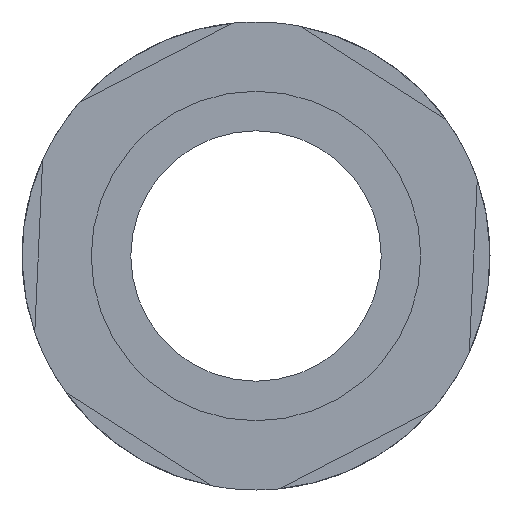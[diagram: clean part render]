
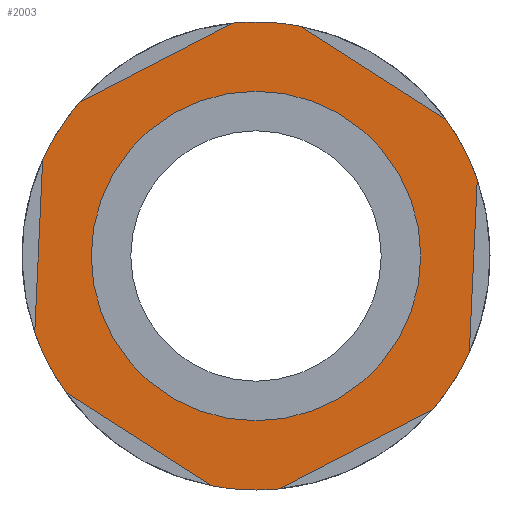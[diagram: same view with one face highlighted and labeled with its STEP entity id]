
A CAD part, front view. The second image highlights one B-rep face of the part: STEP entity #2003.
In plain terms, the highlighted planar face has unit normal (0, -1, 0).
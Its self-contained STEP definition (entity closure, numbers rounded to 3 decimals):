
#4 = DIRECTION ( 'NONE',  ( 0., 0., 1. ) ) ;
#36 = VERTEX_POINT ( 'NONE', #1442 ) ;
#48 = CARTESIAN_POINT ( 'NONE',  ( 16.043, 0., -10.277 ) ) ;
#69 = VERTEX_POINT ( 'NONE', #755 ) ;
#71 = CARTESIAN_POINT ( 'NONE',  ( -13.394, 0., 11.647 ) ) ;
#78 = VERTEX_POINT ( 'NONE', #1430 ) ;
#79 = FACE_OUTER_BOUND ( 'NONE', #2110, .T. ) ;
#81 = LINE ( 'NONE', #2176, #2086 ) ;
#103 = VERTEX_POINT ( 'NONE', #1650 ) ;
#113 = EDGE_CURVE ( 'NONE', #693, #69, #1532, .T. ) ;
#115 = AXIS2_PLACEMENT_3D ( 'NONE', #960, #254, #977 ) ;
#143 = VERTEX_POINT ( 'NONE', #2141 ) ;
#146 = CARTESIAN_POINT ( 'NONE',  ( 0., 0., 0. ) ) ;
#214 = DIRECTION ( 'NONE',  ( 0., 1., 0. ) ) ;
#248 = CIRCLE ( 'NONE', #836, 17.75 ) ;
#254 = DIRECTION ( 'NONE',  ( 0., 1., 0. ) ) ;
#263 = CARTESIAN_POINT ( 'NONE',  ( 0., 0., 0. ) ) ;
#269 = DIRECTION ( 'NONE',  ( 0., 1., 0. ) ) ;
#281 = AXIS2_PLACEMENT_3D ( 'NONE', #1184, #2056, #2219 ) ;
#283 = CARTESIAN_POINT ( 'NONE',  ( -14.409, 0., -10.365 ) ) ;
#307 = CARTESIAN_POINT ( 'NONE',  ( 0., 0., 0. ) ) ;
#310 = EDGE_CURVE ( 'NONE', #1712, #693, #1266, .T. ) ;
#315 = CARTESIAN_POINT ( 'NONE',  ( -16.181, 0., 7.297 ) ) ;
#326 = AXIS2_PLACEMENT_3D ( 'NONE', #307, #674, #1546 ) ;
#425 = VECTOR ( 'NONE', #907, 1000. ) ;
#432 = AXIS2_PLACEMENT_3D ( 'NONE', #263, #785, #1996 ) ;
#442 = CARTESIAN_POINT ( 'NONE',  ( 0., 0., 12.5 ) ) ;
#461 = EDGE_CURVE ( 'NONE', #1877, #1389, #1388, .T. ) ;
#533 = AXIS2_PLACEMENT_3D ( 'NONE', #1942, #214, #1076 ) ;
#537 = CIRCLE ( 'NONE', #115, 17.75 ) ;
#538 = CARTESIAN_POINT ( 'NONE',  ( 16.921, 0., 8.756 ) ) ;
#563 = EDGE_CURVE ( 'NONE', #103, #1712, #248, .T. ) ;
#570 = VERTEX_POINT ( 'NONE', #2102 ) ;
#585 = CARTESIAN_POINT ( 'NONE',  ( 0., 0., 0. ) ) ;
#650 = FACE_BOUND ( 'NONE', #828, .T. ) ;
#657 = DIRECTION ( 'NONE',  ( 0.842, 0., -0.539 ) ) ;
#674 = DIRECTION ( 'NONE',  ( 0., 1., 0. ) ) ;
#677 = EDGE_CURVE ( 'NONE', #1391, #2027, #1688, .T. ) ;
#693 = VERTEX_POINT ( 'NONE', #283 ) ;
#701 = CARTESIAN_POINT ( 'NONE',  ( 13.394, 0., -11.647 ) ) ;
#711 = VECTOR ( 'NONE', #2186, 1000. ) ;
#718 = CARTESIAN_POINT ( 'NONE',  ( 16.181, 0., -7.297 ) ) ;
#755 = CARTESIAN_POINT ( 'NONE',  ( -16.784, 0., -5.776 ) ) ;
#769 = VECTOR ( 'NONE', #657, 1000. ) ;
#771 = ORIENTED_EDGE ( 'NONE', *, *, #310, .F. ) ;
#785 = DIRECTION ( 'NONE',  ( 0., 1., 0. ) ) ;
#788 = EDGE_CURVE ( 'NONE', #78, #968, #1814, .T. ) ;
#801 = VERTEX_POINT ( 'NONE', #315 ) ;
#810 = AXIS2_PLACEMENT_3D ( 'NONE', #146, #866, #2072 ) ;
#811 = DIRECTION ( 'NONE',  ( 0.046, 0., 0.999 ) ) ;
#828 = EDGE_LOOP ( 'NONE', ( #1714, #2189 ) ) ;
#835 = CARTESIAN_POINT ( 'NONE',  ( 0.878, 0., 19.032 ) ) ;
#836 = AXIS2_PLACEMENT_3D ( 'NONE', #585, #1657, #1978 ) ;
#866 = DIRECTION ( 'NONE',  ( 0., 1., 0. ) ) ;
#867 = AXIS2_PLACEMENT_3D ( 'NONE', #1319, #269, #1489 ) ;
#886 = DIRECTION ( 'NONE',  ( 0., 1., 0. ) ) ;
#899 = LINE ( 'NONE', #48, #425 ) ;
#904 = DIRECTION ( 'NONE',  ( -0.046, 0., -0.999 ) ) ;
#907 = DIRECTION ( 'NONE',  ( -0.888, 0., -0.46 ) ) ;
#940 = EDGE_CURVE ( 'NONE', #1389, #1877, #2064, .T. ) ;
#960 = CARTESIAN_POINT ( 'NONE',  ( 0., 0., 0. ) ) ;
#962 = CIRCLE ( 'NONE', #326, 17.75 ) ;
#968 = VERTEX_POINT ( 'NONE', #2144 ) ;
#972 = CARTESIAN_POINT ( 'NONE',  ( 0., 0., -12.5 ) ) ;
#977 = DIRECTION ( 'NONE',  ( 0., 0., 1. ) ) ;
#995 = DIRECTION ( 'NONE',  ( 0., 1., 0. ) ) ;
#998 = VECTOR ( 'NONE', #1598, 1000. ) ;
#1016 = CARTESIAN_POINT ( 'NONE',  ( 0., 0., 0. ) ) ;
#1048 = EDGE_CURVE ( 'NONE', #36, #103, #962, .T. ) ;
#1071 = ORIENTED_EDGE ( 'NONE', *, *, #1304, .F. ) ;
#1076 = DIRECTION ( 'NONE',  ( 0., 0., 1. ) ) ;
#1086 = CARTESIAN_POINT ( 'NONE',  ( -3.39, 0., -17.423 ) ) ;
#1130 = VECTOR ( 'NONE', #904, 1000. ) ;
#1182 = DIRECTION ( 'NONE',  ( 0., 0., 1. ) ) ;
#1184 = CARTESIAN_POINT ( 'NONE',  ( 0., 0., 0. ) ) ;
#1188 = CIRCLE ( 'NONE', #2125, 17.75 ) ;
#1199 = EDGE_CURVE ( 'NONE', #968, #143, #1335, .T. ) ;
#1220 = CARTESIAN_POINT ( 'NONE',  ( 0., 0., 0. ) ) ;
#1227 = ORIENTED_EDGE ( 'NONE', *, *, #1828, .F. ) ;
#1266 = LINE ( 'NONE', #1709, #998 ) ;
#1287 = ORIENTED_EDGE ( 'NONE', *, *, #1048, .F. ) ;
#1304 = EDGE_CURVE ( 'NONE', #2012, #36, #899, .T. ) ;
#1319 = CARTESIAN_POINT ( 'NONE',  ( 0., 0., 0. ) ) ;
#1328 = ORIENTED_EDGE ( 'NONE', *, *, #677, .F. ) ;
#1332 = CARTESIAN_POINT ( 'NONE',  ( -16.043, 0., 10.277 ) ) ;
#1335 = CIRCLE ( 'NONE', #1509, 17.75 ) ;
#1354 = ORIENTED_EDGE ( 'NONE', *, *, #113, .F. ) ;
#1369 = ORIENTED_EDGE ( 'NONE', *, *, #788, .F. ) ;
#1388 = CIRCLE ( 'NONE', #810, 12.5 ) ;
#1389 = VERTEX_POINT ( 'NONE', #972 ) ;
#1391 = VERTEX_POINT ( 'NONE', #71 ) ;
#1393 = ORIENTED_EDGE ( 'NONE', *, *, #1500, .F. ) ;
#1412 = CIRCLE ( 'NONE', #533, 17.75 ) ;
#1430 = CARTESIAN_POINT ( 'NONE',  ( 3.39, 0., 17.423 ) ) ;
#1442 = CARTESIAN_POINT ( 'NONE',  ( 1.771, 0., -17.661 ) ) ;
#1487 = ORIENTED_EDGE ( 'NONE', *, *, #1840, .F. ) ;
#1489 = DIRECTION ( 'NONE',  ( 0., 0., 1. ) ) ;
#1500 = EDGE_CURVE ( 'NONE', #2196, #2012, #1891, .T. ) ;
#1509 = AXIS2_PLACEMENT_3D ( 'NONE', #1220, #886, #4 ) ;
#1522 = ORIENTED_EDGE ( 'NONE', *, *, #1718, .F. ) ;
#1532 = CIRCLE ( 'NONE', #867, 17.75 ) ;
#1546 = DIRECTION ( 'NONE',  ( 0., 0., 1. ) ) ;
#1598 = DIRECTION ( 'NONE',  ( -0.842, 0., 0.539 ) ) ;
#1650 = CARTESIAN_POINT ( 'NONE',  ( 0., 0., -17.75 ) ) ;
#1657 = DIRECTION ( 'NONE',  ( 0., 1., 0. ) ) ;
#1671 = EDGE_CURVE ( 'NONE', #143, #2196, #1732, .T. ) ;
#1688 = LINE ( 'NONE', #1332, #711 ) ;
#1709 = CARTESIAN_POINT ( 'NONE',  ( -0.878, 0., -19.032 ) ) ;
#1712 = VERTEX_POINT ( 'NONE', #1086 ) ;
#1714 = ORIENTED_EDGE ( 'NONE', *, *, #940, .T. ) ;
#1718 = EDGE_CURVE ( 'NONE', #801, #1391, #1412, .T. ) ;
#1723 = CARTESIAN_POINT ( 'NONE',  ( -1.771, 0., 17.661 ) ) ;
#1732 = LINE ( 'NONE', #538, #1130 ) ;
#1770 = EDGE_CURVE ( 'NONE', #2027, #570, #1188, .T. ) ;
#1798 = DIRECTION ( 'NONE',  ( 0., 1., 0. ) ) ;
#1814 = LINE ( 'NONE', #835, #769 ) ;
#1828 = EDGE_CURVE ( 'NONE', #570, #78, #537, .T. ) ;
#1840 = EDGE_CURVE ( 'NONE', #69, #801, #81, .T. ) ;
#1877 = VERTEX_POINT ( 'NONE', #442 ) ;
#1879 = ORIENTED_EDGE ( 'NONE', *, *, #1199, .F. ) ;
#1891 = CIRCLE ( 'NONE', #281, 17.75 ) ;
#1942 = CARTESIAN_POINT ( 'NONE',  ( 0., 0., 0. ) ) ;
#1964 = DIRECTION ( 'NONE',  ( 0., 0., 1. ) ) ;
#1978 = DIRECTION ( 'NONE',  ( 0., 0., 1. ) ) ;
#1996 = DIRECTION ( 'NONE',  ( 0., 0., 1. ) ) ;
#2001 = AXIS2_PLACEMENT_3D ( 'NONE', #1016, #995, #1182 ) ;
#2003 = ADVANCED_FACE ( 'NONE', ( #79, #650 ), #2201, .F. ) ;
#2012 = VERTEX_POINT ( 'NONE', #701 ) ;
#2027 = VERTEX_POINT ( 'NONE', #1723 ) ;
#2056 = DIRECTION ( 'NONE',  ( 0., 1., 0. ) ) ;
#2064 = CIRCLE ( 'NONE', #432, 12.5 ) ;
#2072 = DIRECTION ( 'NONE',  ( 0., 0., 1. ) ) ;
#2086 = VECTOR ( 'NONE', #811, 1000. ) ;
#2102 = CARTESIAN_POINT ( 'NONE',  ( 0., 0., 17.75 ) ) ;
#2110 = EDGE_LOOP ( 'NONE', ( #1393, #2128, #1879, #1369, #1227, #2221, #1328, #1522, #1487, #1354, #771, #2191, #1287, #1071 ) ) ;
#2125 = AXIS2_PLACEMENT_3D ( 'NONE', #2134, #1798, #1964 ) ;
#2128 = ORIENTED_EDGE ( 'NONE', *, *, #1671, .F. ) ;
#2134 = CARTESIAN_POINT ( 'NONE',  ( 0., 0., 0. ) ) ;
#2141 = CARTESIAN_POINT ( 'NONE',  ( 16.784, 0., 5.776 ) ) ;
#2144 = CARTESIAN_POINT ( 'NONE',  ( 14.409, 0., 10.365 ) ) ;
#2176 = CARTESIAN_POINT ( 'NONE',  ( -16.921, 0., -8.756 ) ) ;
#2186 = DIRECTION ( 'NONE',  ( 0.888, 0., 0.46 ) ) ;
#2189 = ORIENTED_EDGE ( 'NONE', *, *, #461, .T. ) ;
#2191 = ORIENTED_EDGE ( 'NONE', *, *, #563, .F. ) ;
#2196 = VERTEX_POINT ( 'NONE', #718 ) ;
#2201 = PLANE ( 'NONE',  #2001 ) ;
#2219 = DIRECTION ( 'NONE',  ( 0., 0., 1. ) ) ;
#2221 = ORIENTED_EDGE ( 'NONE', *, *, #1770, .F. ) ;
